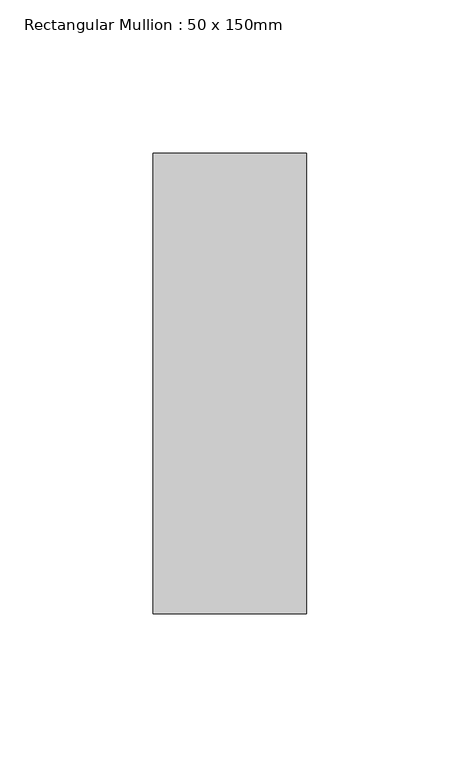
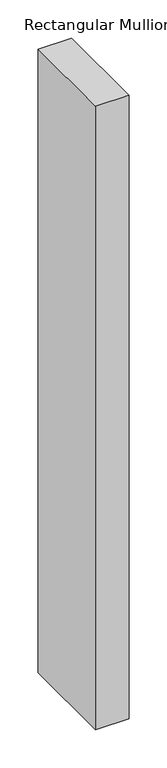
"""IFC4 building model written with IfcOpenShell, lengths in millimetres: member geometry, Rectangular Mullion : 50 x 150mm."""

from ifc_helpers import new_model, si_unit, frame, origin, place, context, project, spatial, polyline, outline, extrude, source, transform, mapped, element, save


def rectangular_mullion_50_x_150mm_b8d1d5e0(model_context):
    return source(origin(), model_context, "Body", "SweptSolid", [
        extrude(outline(polyline([(25.0, 75.0), (25.0, -75.0), (-25.0, -75.0), (-25.0, 75.0), (25.0, 75.0)])), frame((0.0, 0.0, -991.8831683), z_axis=(0.0, 0.0, 1.0), x_axis=(1.0, 0.0, 0.0)), (0.0, 0.0, 1.0), 991.8831683),
    ])


if __name__ == "__main__":
    model = new_model("IFC4")
    model_context = context("Model", 3, world=origin())
    ifc_project = project(units=[si_unit("LENGTHUNIT", "METRE", prefix="MILLI")], contexts=[model_context])
    site = spatial("IfcSite", under=ifc_project)
    building = spatial("IfcBuilding", under=site)
    placement = place(None, origin())
    rectangular_mullion_50_x_150mm_shape = rectangular_mullion_50_x_150mm_b8d1d5e0(model_context)
    element("IfcMember", 1, ObjectType="Rectangular Mullion : 50 x 150mm", at=placement, inside=building, context=model_context, shape_type="MappedRepresentation", body=[
        mapped(rectangular_mullion_50_x_150mm_shape, transform((0.0, 0.0, 0.0), x_axis=(1.0, 0.0, 0.0), y_axis=(0.0, 1.0, 0.0), z_axis=(0.0, 0.0, 1.0))),
    ])
    save(model, "model.ifc")
